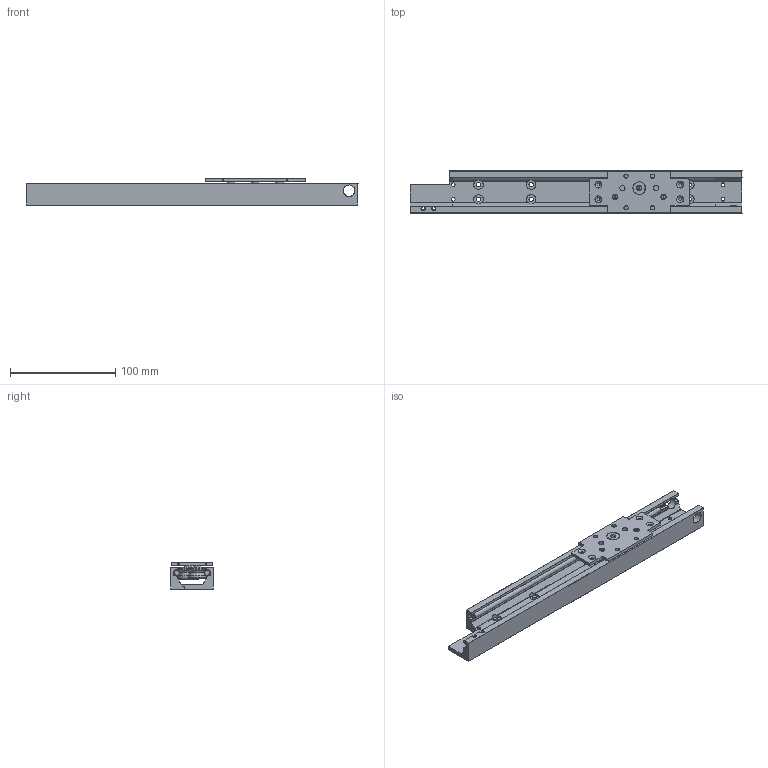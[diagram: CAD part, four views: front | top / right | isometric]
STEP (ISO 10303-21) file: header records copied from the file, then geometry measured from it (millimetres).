
FILE_DESCRIPTION((''),'1');
FILE_NAME('H:/図庫/国内ﾕﾆｯﾄ/ﾌﾙﾗｲﾄﾞ/ホームページ用ＣＡＤ図面/最新/3D/40SW0315S_HP.stp','2016-11-25T07:38:32',(''),(''),'Spatial Interop R21 SP3','Kubotek KeyCreator 2011 V10.0.2 (22737)',' ');
FILE_SCHEMA(('automotive_design'));
Length unit declared in the file: millimetre
Products named in the file (169): Unnamed[1]
Bounding box: 315 x 40 x 25.03 mm (x, y, z)
Surface area: 70935.1 mm2 (no closed solid volume)
Topology: 0 solids, 320 shells, 320 faces, 1461 edges, 1356 vertices
Faces by surface type: cylinder 144, plane 114, cone 37, bspline 19, torus 6
Full cylindrical faces by diameter (mm): 3 x3, 3.1 x4, 3.3 x2, 3.5 x4, 4 x4, 4.2 x6, 5 x5, 6 x4, 6.03 x2, 7 x3, 7.8 x3, 9 x6, 10 x3, 11 x4, 13 x1, 17 x4, 19.9 x2
Entity records: 25441 total; most frequent: CARTESIAN_POINT 6066, DIRECTION 2550, ORIENTED_EDGE 1342, EDGE_CURVE 1342, VERTEX_POINT 1342, AXIS2_PLACEMENT_3D 1078, PRESENTATION_STYLE_ASSIGNMENT 978, COLOUR_RGB 978
